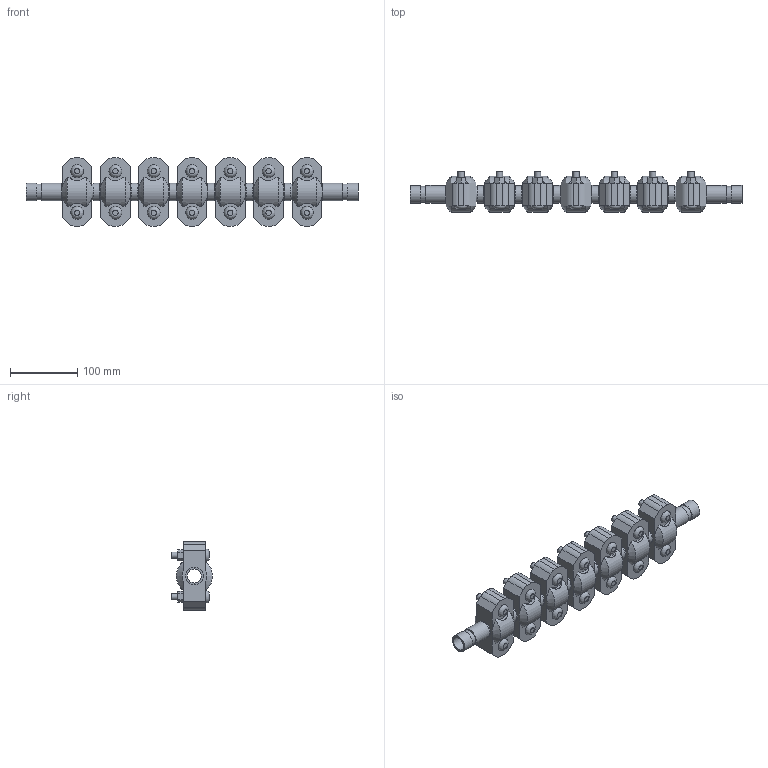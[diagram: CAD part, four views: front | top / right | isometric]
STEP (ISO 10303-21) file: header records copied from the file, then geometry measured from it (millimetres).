
FILE_DESCRIPTION(/* description */ ('VIC EXPANSION JOINT 7 COUPLINGS COMPRESSED STYLE 155 (OGS)','CAx-IF Rec.Pracs.---Representation and Presentation of Product Manufacturing Information (PMI)---4.0---2014-10-13'),/* implementation_level */ '2;1');
FILE_NAME(/* name */ 'C:\Users\kkamble\AppData\Roaming\Autodesk\ApplicationPlugins\Victaulic.Temp\A262\Victaulic_IPS_Expansion Joint_Compressed_7 Couplings_Style 155 (OGS)_0.75 (20).stp',/* time_stamp */ '2021-06-27T00:33:20+02:00',/* author */ ('kkamble'),/* organization */ ('Victaulic'),/* preprocessor_version */ 'ST-DEVELOPER v17.2',/* originating_system */ 'Autodesk Inventor 2019',/* authorisation */ '');
FILE_SCHEMA (('AP242_MANAGED_MODEL_BASED_3D_ENGINEERING_MIM_LF { 1 0 10303 442 1 1 4 }'));
Length unit declared in the file: inch
Products named in the file (4): 155-0.75; Nipple-0.75; Nipple-0.75_1; 077-0.75
Assembly tree (15 placements, depth 2):
  155-0.75
    Nipple-0.75  x2
    Nipple-0.75_1  x6
    077-0.75  x7
Bounding box: 495.3 x 61.1 x 101.6 mm (x, y, z)
Volume: 1077719.3 mm3; surface area: 269901.1 mm2
Topology: 15 solids, 29 shells, 495 faces, 1213 edges, 850 vertices
Faces by surface type: plane 286, cylinder 167, cone 28, bspline 14
Full cylindrical faces by diameter (mm): 9.525 x28, 11.43 x14, 20.93 x8, 23.825 x16, 26.67 x31
Entity records: 2939 total; most frequent: CARTESIAN_POINT 577, DIRECTION 475, ORIENTED_EDGE 398, EDGE_CURVE 199, AXIS2_PLACEMENT_3D 190, VERTEX_POINT 142, EDGE_LOOP 105, LINE 95
